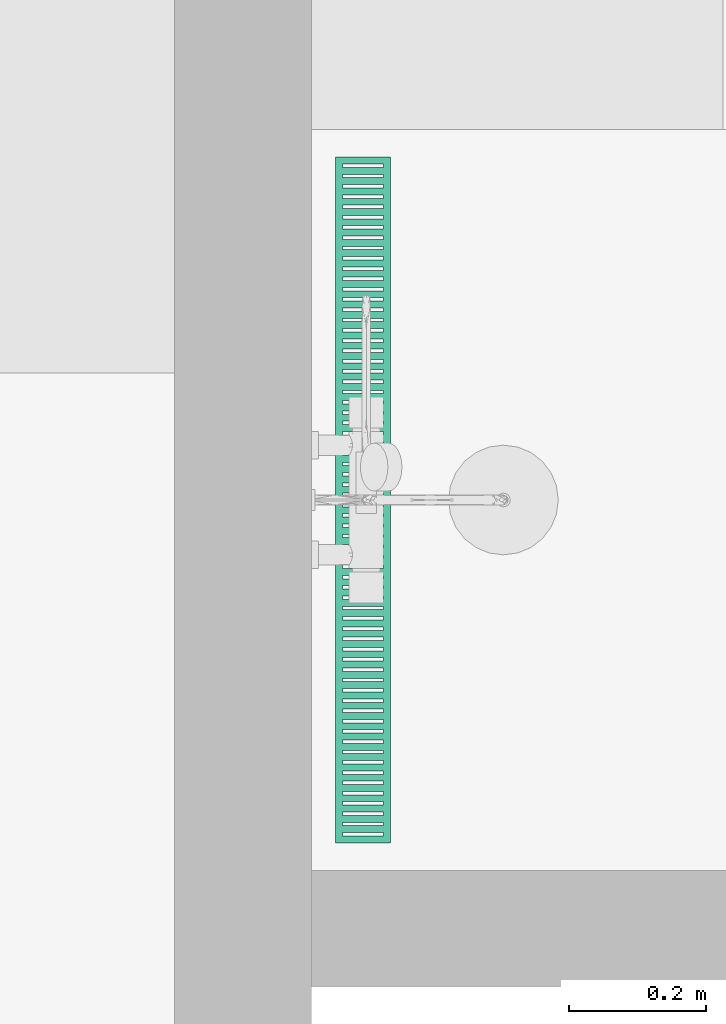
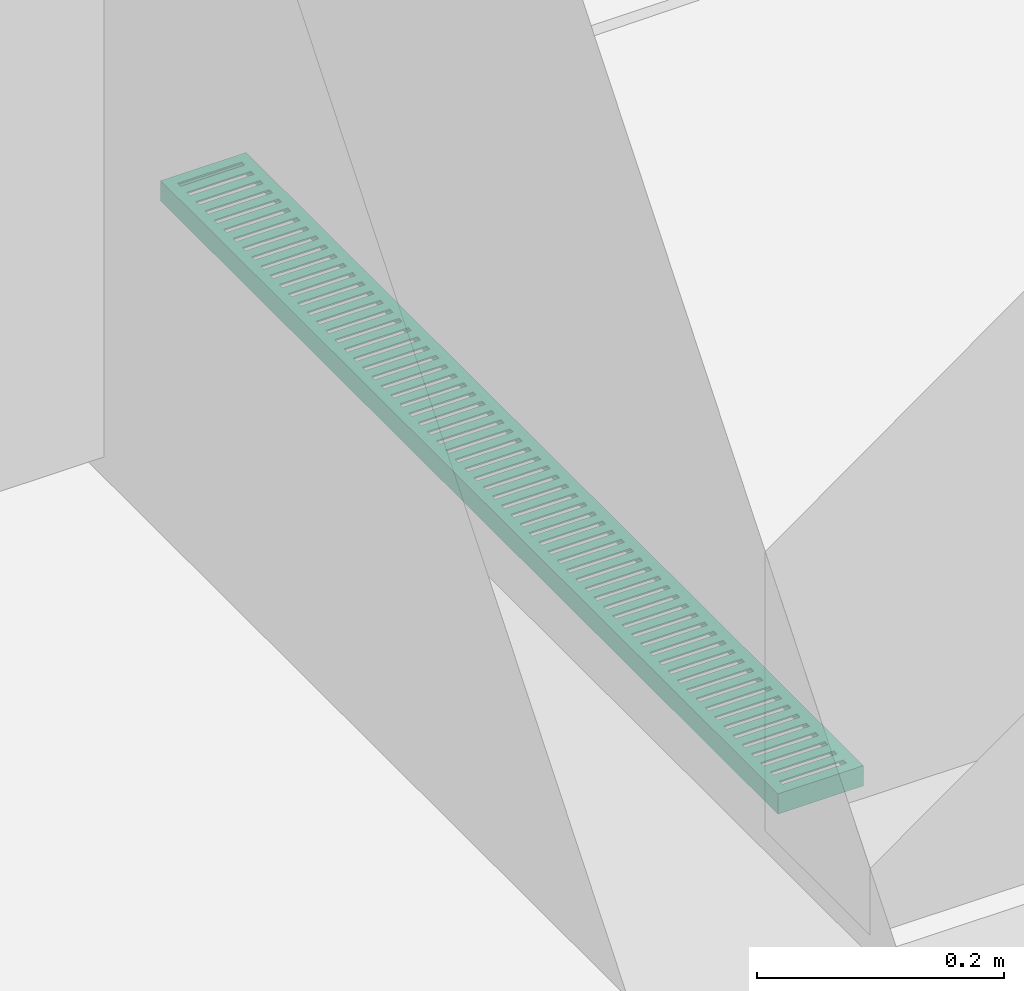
# One storey, part 51 of 125: 1 flow terminal.
"""IFC2X3 building model written with IfcOpenShell, lengths in millimetres."""

from ifc_helpers import new_model, entity, si_unit, converted_unit, direction, frame, origin, place, context, subcontext, project, spatial, faceted_brep, source, transform, mapped, material, type_object, type_shapes, element, save


model = new_model("IFC2X3")

# Units and contexts
model_context = context("Model", 3, precision=0.01, world=origin(), true_north=direction((6.123233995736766e-17, 1.0)))
plan_context = context("Plan", 3, precision=0.01, world=origin(), true_north=direction((6.123233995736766e-17, 1.0)))
body_context = subcontext(model_context, "Body", "Model", "MODEL_VIEW")
ifc_project = project(units=[si_unit("LENGTHUNIT", "METRE", prefix="MILLI"), converted_unit("PLANEANGLEUNIT", "DEGREE", entity("IfcPlaneAngleMeasure", 0.017453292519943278), si_unit("PLANEANGLEUNIT", "RADIAN"), dimensions=[0, 0, 0, 0, 0, 0, 0]), si_unit("AREAUNIT", "SQUARE_METRE")], contexts=[model_context, plan_context])

# Site, building, storey, space
site_placement = place(None, origin())
site = spatial("IfcSite", under=ifc_project, at=site_placement, Name="Default", CompositionType="ELEMENT")
building_placement = place(site_placement, origin())
building = spatial("IfcBuilding", under=site, at=building_placement, CompositionType="ELEMENT")
storey_placement = place(building_placement, frame((0.0, 0.0, 3125.0)))
storey = spatial("IfcBuildingStorey", under=building, at=storey_placement, Name="2K", CompositionType="ELEMENT", Elevation=3125.0)
space_placement = place(storey_placement, origin())
space = spatial("IfcSpace", under=storey, at=space_placement, Name="2-3.4", CompositionType="ELEMENT", InteriorOrExteriorSpace="INTERNAL")

# Flow terminal
ifc_material = material(Name="<Unnamed>")
distribution_element_type = type_object("IfcDistributionElementType", Name="HR_Plumbing-fixtures_Drain_Channel_Generic_v1:Default", material=ifc_material)
shared_shape = source(origin(), body_context, "Body", "Brep", [
    faceted_brep([(500.0, 80.0, 0.0), (-500.0, 80.0, 0.0), (-500.0, 0.0, 0.0), (500.0, 0.0, 0.0), (20.0, 70.0, 0.0), (25.0, 70.0, 0.0), (25.0, 10.0, 0.0), (20.0, 10.0, 0.0), (35.0, 70.0, 0.0), (40.0, 70.0, 0.0), (40.0, 10.0, 0.0), (35.0, 10.0, 0.0), (50.0, 70.0, 0.0), (55.0, 70.0, 0.0), (55.0, 10.0, 0.0), (50.0, 10.0, 0.0), (65.0, 70.0, 0.0), (70.0, 70.0, 0.0), (70.0, 10.0, 0.0), (65.0, 10.0, 0.0), (80.0, 70.0, 0.0), (85.0, 70.0, 0.0), (85.0, 10.0, 0.0), (80.0, 10.0, 0.0), (95.0, 70.0, 0.0), (100.0, 70.0, 0.0), (100.0, 10.0, 0.0), (95.0, 10.0, 0.0), (110.0, 70.0, 0.0), (115.0, 70.0, 0.0), (115.0, 10.0, 0.0), (110.0, 10.0, 0.0), (125.0, 70.0, 0.0), (130.0, 70.0, 0.0), (130.0, 10.0, 0.0), (125.0, 10.0, 0.0), (140.0, 70.0, 0.0), (145.0, 70.0, 0.0), (145.0, 10.0, 0.0), (140.0, 10.0, 0.0), (155.0, 70.0, 0.0), (160.0, 70.0, 0.0), (160.0, 10.0, 0.0), (155.0, 10.0, 0.0), (170.0, 70.0, 0.0), (175.0, 70.0, 0.0), (175.0, 10.0, 0.0), (170.0, 10.0, 0.0), (185.0, 70.0, 0.0), (190.0, 70.0, 0.0), (190.0, 10.0, 0.0), (185.0, 10.0, 0.0), (200.0, 70.0, 0.0), (205.0, 70.0, 0.0), (205.0, 10.0, 0.0), (200.0, 10.0, 0.0), (215.0, 70.0, 0.0), (220.0, 70.0, 0.0), (220.0, 10.0, 0.0), (215.0, 10.0, 0.0), (230.0, 70.0, 0.0), (235.0, 70.0, 0.0), (235.0, 10.0, 0.0), (230.0, 10.0, 0.0), (245.0, 70.0, 0.0), (250.0, 70.0, 0.0), (250.0, 10.0, 0.0), (245.0, 10.0, 0.0), (260.0, 70.0, 0.0), (265.0, 70.0, 0.0), (265.0, 10.0, 0.0), (260.0, 10.0, 0.0), (275.0, 70.0, 0.0), (280.0, 70.0, 0.0), (280.0, 10.0, 0.0), (275.0, 10.0, 0.0), (290.0, 70.0, 0.0), (295.0, 70.0, 0.0), (295.0, 10.0, 0.0), (290.0, 10.0, 0.0), (305.0, 70.0, 0.0), (310.0, 70.0, 0.0), (310.0, 10.0, 0.0), (305.0, 10.0, 0.0), (320.0, 70.0, 0.0), (325.0, 70.0, 0.0), (325.0, 10.0, 0.0), (320.0, 10.0, 0.0), (335.0, 70.0, 0.0), (340.0, 70.0, 0.0), (340.0, 10.0, 0.0), (335.0, 10.0, 0.0), (350.0, 70.0, 0.0), (355.0, 70.0, 0.0), (355.0, 10.0, 0.0), (350.0, 10.0, 0.0), (365.0, 70.0, 0.0), (370.0, 70.0, 0.0), (370.0, 10.0, 0.0), (365.0, 10.0, 0.0), (380.0, 70.0, 0.0), (385.0, 70.0, 0.0), (385.0, 10.0, 0.0), (380.0, 10.0, 0.0), (-25.0, 70.0, 0.0), (-20.0, 70.0, 0.0), (-20.0, 10.0, 0.0), (-25.0, 10.0, 0.0), (-40.0, 70.0, 0.0), (-35.0, 70.0, 0.0), (-35.0, 10.0, 0.0), (-40.0, 10.0, 0.0), (-55.0, 70.0, 0.0), (-50.0, 70.0, 0.0), (-50.0, 10.0, 0.0), (-55.0, 10.0, 0.0), (-70.0, 70.0, 0.0), (-65.0, 70.0, 0.0), (-65.0, 10.0, 0.0), (-70.0, 10.0, 0.0), (-85.0, 70.0, 0.0), (-80.0, 70.0, 0.0), (-80.0, 10.0, 0.0), (-85.0, 10.0, 0.0), (-100.0, 70.0, 0.0), (-95.0, 70.0, 0.0), (-95.0, 10.0, 0.0), (-100.0, 10.0, 0.0), (-115.0, 70.0, 0.0), (-110.0, 70.0, 0.0), (-110.0, 10.0, 0.0), (-115.0, 10.0, 0.0), (-130.0, 70.0, 0.0), (-125.0, 70.0, 0.0), (-125.0, 10.0, 0.0), (-130.0, 10.0, 0.0), (-145.0, 70.0, 0.0), (-140.0, 70.0, 0.0), (-140.0, 10.0, 0.0), (-145.0, 10.0, 0.0), (-160.0, 70.0, 0.0), (-155.0, 70.0, 0.0), (-155.0, 10.0, 0.0), (-160.0, 10.0, 0.0), (-175.0, 70.0, 0.0), (-170.0, 70.0, 0.0), (-170.0, 10.0, 0.0), (-175.0, 10.0, 0.0), (-190.0, 70.0, 0.0), (-185.0, 70.0, 0.0), (-185.0, 10.0, 0.0), (-190.0, 10.0, 0.0), (-205.0, 70.0, 0.0), (-200.0, 70.0, 0.0), (-200.0, 10.0, 0.0), (-205.0, 10.0, 0.0), (-220.0, 70.0, 0.0), (-215.0, 70.0, 0.0), (-215.0, 10.0, 0.0), (-220.0, 10.0, 0.0), (-235.0, 70.0, 0.0), (-230.0, 70.0, 0.0), (-230.0, 10.0, 0.0), (-235.0, 10.0, 0.0), (-250.0, 70.0, 0.0), (-245.0, 70.0, 0.0), (-245.0, 10.0, 0.0), (-250.0, 10.0, 0.0), (-265.0, 70.0, 0.0), (-260.0, 70.0, 0.0), (-260.0, 10.0, 0.0), (-265.0, 10.0, 0.0), (-280.0, 70.0, 0.0), (-275.0, 70.0, 0.0), (-275.0, 10.0, 0.0), (-280.0, 10.0, 0.0), (-295.0, 70.0, 0.0), (-290.0, 70.0, 0.0), (-290.0, 10.0, 0.0), (-295.0, 10.0, 0.0), (-310.0, 70.0, 0.0), (-305.0, 70.0, 0.0), (-305.0, 10.0, 0.0), (-310.0, 10.0, 0.0), (-325.0, 70.0, 0.0), (-320.0, 70.0, 0.0), (-320.0, 10.0, 0.0), (-325.0, 10.0, 0.0), (-340.0, 70.0, 0.0), (-335.0, 70.0, 0.0), (-335.0, 10.0, 0.0), (-340.0, 10.0, 0.0), (-355.0, 70.0, 0.0), (-350.0, 70.0, 0.0), (-350.0, 10.0, 0.0), (-355.0, 10.0, 0.0), (-370.0, 70.0, 0.0), (-365.0, 70.0, 0.0), (-365.0, 10.0, 0.0), (-370.0, 10.0, 0.0), (-385.0, 70.0, 0.0), (-380.0, 70.0, 0.0), (-380.0, 10.0, 0.0), (-385.0, 10.0, 0.0), (395.0, 70.0, 0.0), (400.0, 70.0, 0.0), (400.0, 10.0, 0.0), (395.0, 10.0, 0.0), (410.0, 70.0, 0.0), (415.0, 70.0, 0.0), (415.0, 10.0, 0.0), (410.0, 10.0, 0.0), (425.0, 70.0, 0.0), (430.0, 70.0, 0.0), (430.0, 10.0, 0.0), (425.0, 10.0, 0.0), (440.0, 70.0, 0.0), (445.0, 70.0, 0.0), (445.0, 10.0, 0.0), (440.0, 10.0, 0.0), (455.0, 70.0, 0.0), (460.0, 70.0, 0.0), (460.0, 10.0, 0.0), (455.0, 10.0, 0.0), (470.0, 70.0, 0.0), (475.0, 70.0, 0.0), (475.0, 10.0, 0.0), (470.0, 10.0, 0.0), (485.0, 70.0, 0.0), (490.0, 70.0, 0.0), (490.0, 10.0, 0.0), (485.0, 10.0, 0.0), (-400.0, 70.0, 0.0), (-395.0, 70.0, 0.0), (-395.0, 10.0, 0.0), (-400.0, 10.0, 0.0), (-415.0, 70.0, 0.0), (-410.0, 70.0, 0.0), (-410.0, 10.0, 0.0), (-415.0, 10.0, 0.0), (-430.0, 70.0, 0.0), (-425.0, 70.0, 0.0), (-425.0, 10.0, 0.0), (-430.0, 10.0, 0.0), (-445.0, 70.0, 0.0), (-440.0, 70.0, 0.0), (-440.0, 10.0, 0.0), (-445.0, 10.0, 0.0), (-460.0, 70.0, 0.0), (-455.0, 70.0, 0.0), (-455.0, 10.0, 0.0), (-460.0, 10.0, 0.0), (-475.0, 70.0, 0.0), (-470.0, 70.0, 0.0), (-470.0, 10.0, 0.0), (-475.0, 10.0, 0.0), (-490.0, 70.0, 0.0), (-485.0, 70.0, 0.0), (-485.0, 10.0, 0.0), (-490.0, 10.0, 0.0), (-10.0, 70.0, 0.0), (-5.0, 70.0, 0.0), (-5.0, 10.0, 0.0), (-10.0, 10.0, 0.0), (5.0, 70.0, 0.0), (10.0, 70.0, 0.0), (10.0, 10.0, 0.0), (5.0, 10.0, 0.0), (-500.0, 80.0, -20.0), (500.0, 80.0, -20.0), (500.0, 0.0, -20.0), (-500.0, 0.0, -20.0), (498.5000000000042, 78.500000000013, -20.0), (-498.49999999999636, 78.500000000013, -20.0), (-498.49999999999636, 1.5000000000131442, -20.0), (498.5000000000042, 1.5000000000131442, -20.0), (498.5000000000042, 78.500000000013, -1.5000000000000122), (498.5000000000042, 1.5000000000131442, -1.5000000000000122), (-498.49999999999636, 1.5000000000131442, -1.5000000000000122), (-498.49999999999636, 78.500000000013, -1.5000000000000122), (25.0, 70.0, -1.5000000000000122), (20.0, 70.0, -1.5000000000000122), (20.0, 10.0, -1.5000000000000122), (25.0, 10.0, -1.5000000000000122), (40.0, 70.0, -1.5000000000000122), (35.0, 70.0, -1.5000000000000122), (35.0, 10.0, -1.5000000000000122), (40.0, 10.0, -1.5000000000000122), (55.0, 70.0, -1.5000000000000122), (50.0, 70.0, -1.5000000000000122), (50.0, 10.0, -1.5000000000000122), (55.0, 10.0, -1.5000000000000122), (70.0, 70.0, -1.5000000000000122), (65.0, 70.0, -1.5000000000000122), (65.0, 10.0, -1.5000000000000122), (70.0, 10.0, -1.5000000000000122), (85.0, 70.0, -1.5000000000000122), (80.0, 70.0, -1.5000000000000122), (80.0, 10.0, -1.5000000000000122), (85.0, 10.0, -1.5000000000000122), (100.0, 70.0, -1.5000000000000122), (95.0, 70.0, -1.5000000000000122), (95.0, 10.0, -1.5000000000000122), (100.0, 10.0, -1.5000000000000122), (115.0, 70.0, -1.5000000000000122), (110.0, 70.0, -1.5000000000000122), (110.0, 10.0, -1.5000000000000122), (115.0, 10.0, -1.5000000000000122), (130.0, 70.0, -1.5000000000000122), (125.0, 70.0, -1.5000000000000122), (125.0, 10.0, -1.5000000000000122), (130.0, 10.0, -1.5000000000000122), (145.0, 70.0, -1.5000000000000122), (140.0, 70.0, -1.5000000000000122), (140.0, 10.0, -1.5000000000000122), (145.0, 10.0, -1.5000000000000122), (160.0, 70.0, -1.5000000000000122), (155.0, 70.0, -1.5000000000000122), (155.0, 10.0, -1.5000000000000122), (160.0, 10.0, -1.5000000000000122), (175.0, 70.0, -1.5000000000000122), (170.0, 70.0, -1.5000000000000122), (170.0, 10.0, -1.5000000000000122), (175.0, 10.0, -1.5000000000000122), (190.0, 70.0, -1.5000000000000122), (185.0, 70.0, -1.5000000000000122), (185.0, 10.0, -1.5000000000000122), (190.0, 10.0, -1.5000000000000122), (205.0, 70.0, -1.5000000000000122), (200.0, 70.0, -1.5000000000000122), (200.0, 10.0, -1.5000000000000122), (205.0, 10.0, -1.5000000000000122), (220.0, 70.0, -1.5000000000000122), (215.0, 70.0, -1.5000000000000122), (215.0, 10.0, -1.5000000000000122), (220.0, 10.0, -1.5000000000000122), (235.0, 70.0, -1.5000000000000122), (230.0, 70.0, -1.5000000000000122), (230.0, 10.0, -1.5000000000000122), (235.0, 10.0, -1.5000000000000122), (250.0, 70.0, -1.5000000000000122), (245.0, 70.0, -1.5000000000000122), (245.0, 10.0, -1.5000000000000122), (250.0, 10.0, -1.5000000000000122), (265.0, 70.0, -1.5000000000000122), (260.0, 70.0, -1.5000000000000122), (260.0, 10.0, -1.5000000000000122), (265.0, 10.0, -1.5000000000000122), (280.0, 70.0, -1.5000000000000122), (275.0, 70.0, -1.5000000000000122), (275.0, 10.0, -1.5000000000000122), (280.0, 10.0, -1.5000000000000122), (295.0, 70.0, -1.5000000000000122), (290.0, 70.0, -1.5000000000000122), (290.0, 10.0, -1.5000000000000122), (295.0, 10.0, -1.5000000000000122), (310.0, 70.0, -1.5000000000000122), (305.0, 70.0, -1.5000000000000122), (305.0, 10.0, -1.5000000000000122), (310.0, 10.0, -1.5000000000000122), (325.0, 70.0, -1.5000000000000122), (320.0, 70.0, -1.5000000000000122), (320.0, 10.0, -1.5000000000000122), (325.0, 10.0, -1.5000000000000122), (340.0, 70.0, -1.5000000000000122), (335.0, 70.0, -1.5000000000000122), (335.0, 10.0, -1.5000000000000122), (340.0, 10.0, -1.5000000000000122), (355.0, 70.0, -1.5000000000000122), (350.0, 70.0, -1.5000000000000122), (350.0, 10.0, -1.5000000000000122), (355.0, 10.0, -1.5000000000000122), (370.0, 70.0, -1.5000000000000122), (365.0, 70.0, -1.5000000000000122), (365.0, 10.0, -1.5000000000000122), (370.0, 10.0, -1.5000000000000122), (385.0, 70.0, -1.5000000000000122), (380.0, 70.0, -1.5000000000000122), (380.0, 10.0, -1.5000000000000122), (385.0, 10.0, -1.5000000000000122), (-20.0, 70.0, -1.5000000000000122), (-25.0, 70.0, -1.5000000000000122), (-25.0, 10.0, -1.5000000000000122), (-20.0, 10.0, -1.5000000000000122), (-35.0, 70.0, -1.5000000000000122), (-40.0, 70.0, -1.5000000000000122), (-40.0, 10.0, -1.5000000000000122), (-35.0, 10.0, -1.5000000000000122), (-50.0, 70.0, -1.5000000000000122), (-55.0, 70.0, -1.5000000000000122), (-55.0, 10.0, -1.5000000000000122), (-50.0, 10.0, -1.5000000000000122), (-65.0, 70.0, -1.5000000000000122), (-70.0, 70.0, -1.5000000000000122), (-70.0, 10.0, -1.5000000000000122), (-65.0, 10.0, -1.5000000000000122), (-80.0, 70.0, -1.5000000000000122), (-85.0, 70.0, -1.5000000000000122), (-85.0, 10.0, -1.5000000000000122), (-80.0, 10.0, -1.5000000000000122), (-95.0, 70.0, -1.5000000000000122), (-100.0, 70.0, -1.5000000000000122), (-100.0, 10.0, -1.5000000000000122), (-95.0, 10.0, -1.5000000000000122), (-110.0, 70.0, -1.5000000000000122), (-115.0, 70.0, -1.5000000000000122), (-115.0, 10.0, -1.5000000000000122), (-110.0, 10.0, -1.5000000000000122), (-125.0, 70.0, -1.5000000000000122), (-130.0, 70.0, -1.5000000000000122), (-130.0, 10.0, -1.5000000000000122), (-125.0, 10.0, -1.5000000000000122), (-140.0, 70.0, -1.5000000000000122), (-145.0, 70.0, -1.5000000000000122), (-145.0, 10.0, -1.5000000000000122), (-140.0, 10.0, -1.5000000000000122), (-155.0, 70.0, -1.5000000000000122), (-160.0, 70.0, -1.5000000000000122), (-160.0, 10.0, -1.5000000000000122), (-155.0, 10.0, -1.5000000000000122), (-170.0, 70.0, -1.5000000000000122), (-175.0, 70.0, -1.5000000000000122), (-175.0, 10.0, -1.5000000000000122), (-170.0, 10.0, -1.5000000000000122), (-185.0, 70.0, -1.5000000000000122), (-190.0, 70.0, -1.5000000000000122), (-190.0, 10.0, -1.5000000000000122), (-185.0, 10.0, -1.5000000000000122), (-200.0, 70.0, -1.5000000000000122), (-205.0, 70.0, -1.5000000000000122), (-205.0, 10.0, -1.5000000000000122), (-200.0, 10.0, -1.5000000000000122), (-215.0, 70.0, -1.5000000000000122), (-220.0, 70.0, -1.5000000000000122), (-220.0, 10.0, -1.5000000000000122), (-215.0, 10.0, -1.5000000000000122), (-230.0, 70.0, -1.5000000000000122), (-235.0, 70.0, -1.5000000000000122), (-235.0, 10.0, -1.5000000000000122), (-230.0, 10.0, -1.5000000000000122), (-245.0, 70.0, -1.5000000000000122), (-250.0, 70.0, -1.5000000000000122), (-250.0, 10.0, -1.5000000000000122), (-245.0, 10.0, -1.5000000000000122), (-260.0, 70.0, -1.5000000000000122), (-265.0, 70.0, -1.5000000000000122), (-265.0, 10.0, -1.5000000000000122), (-260.0, 10.0, -1.5000000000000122), (-275.0, 70.0, -1.5000000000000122), (-280.0, 70.0, -1.5000000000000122), (-280.0, 10.0, -1.5000000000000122), (-275.0, 10.0, -1.5000000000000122), (-290.0, 70.0, -1.5000000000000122), (-295.0, 70.0, -1.5000000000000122), (-295.0, 10.0, -1.5000000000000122), (-290.0, 10.0, -1.5000000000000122), (-305.0, 70.0, -1.5000000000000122), (-310.0, 70.0, -1.5000000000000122), (-310.0, 10.0, -1.5000000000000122), (-305.0, 10.0, -1.5000000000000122), (-320.0, 70.0, -1.5000000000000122), (-325.0, 70.0, -1.5000000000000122), (-325.0, 10.0, -1.5000000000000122), (-320.0, 10.0, -1.5000000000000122), (-335.0, 70.0, -1.5000000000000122), (-340.0, 70.0, -1.5000000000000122), (-340.0, 10.0, -1.5000000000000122), (-335.0, 10.0, -1.5000000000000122), (-350.0, 70.0, -1.5000000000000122), (-355.0, 70.0, -1.5000000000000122), (-355.0, 10.0, -1.5000000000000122), (-350.0, 10.0, -1.5000000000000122), (-365.0, 70.0, -1.5000000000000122), (-370.0, 70.0, -1.5000000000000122), (-370.0, 10.0, -1.5000000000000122), (-365.0, 10.0, -1.5000000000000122), (-380.0, 70.0, -1.5000000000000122), (-385.0, 70.0, -1.5000000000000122), (-385.0, 10.0, -1.5000000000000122), (-380.0, 10.0, -1.5000000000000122), (400.0, 70.0, -1.5000000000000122), (395.0, 70.0, -1.5000000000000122), (395.0, 10.0, -1.5000000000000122), (400.0, 10.0, -1.5000000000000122), (415.0, 70.0, -1.5000000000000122), (410.0, 70.0, -1.5000000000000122), (410.0, 10.0, -1.5000000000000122), (415.0, 10.0, -1.5000000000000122), (430.0, 70.0, -1.5000000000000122), (425.0, 70.0, -1.5000000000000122), (425.0, 10.0, -1.5000000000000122), (430.0, 10.0, -1.5000000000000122), (445.0, 70.0, -1.5000000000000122), (440.0, 70.0, -1.5000000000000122), (440.0, 10.0, -1.5000000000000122), (445.0, 10.0, -1.5000000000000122), (460.0, 70.0, -1.5000000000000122), (455.0, 70.0, -1.5000000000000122), (455.0, 10.0, -1.5000000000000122), (460.0, 10.0, -1.5000000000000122), (475.0, 70.0, -1.5000000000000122), (470.0, 70.0, -1.5000000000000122), (470.0, 10.0, -1.5000000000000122), (475.0, 10.0, -1.5000000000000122), (490.0, 70.0, -1.5000000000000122), (485.0, 70.0, -1.5000000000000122), (485.0, 10.0, -1.5000000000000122), (490.0, 10.0, -1.5000000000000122), (-395.0, 70.0, -1.5000000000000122), (-400.0, 70.0, -1.5000000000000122), (-400.0, 10.0, -1.5000000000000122), (-395.0, 10.0, -1.5000000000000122), (-410.0, 70.0, -1.5000000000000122), (-415.0, 70.0, -1.5000000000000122), (-415.0, 10.0, -1.5000000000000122), (-410.0, 10.0, -1.5000000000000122), (-425.0, 70.0, -1.5000000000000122), (-430.0, 70.0, -1.5000000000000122), (-430.0, 10.0, -1.5000000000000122), (-425.0, 10.0, -1.5000000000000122), (-440.0, 70.0, -1.5000000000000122), (-445.0, 70.0, -1.5000000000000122), (-445.0, 10.0, -1.5000000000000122), (-440.0, 10.0, -1.5000000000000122), (-455.0, 70.0, -1.5000000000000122), (-460.0, 70.0, -1.5000000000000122), (-460.0, 10.0, -1.5000000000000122), (-455.0, 10.0, -1.5000000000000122), (-470.0, 70.0, -1.5000000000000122), (-475.0, 70.0, -1.5000000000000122), (-475.0, 10.0, -1.5000000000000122), (-470.0, 10.0, -1.5000000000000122), (-485.0, 70.0, -1.5000000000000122), (-490.0, 70.0, -1.5000000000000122), (-490.0, 10.0, -1.5000000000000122), (-485.0, 10.0, -1.5000000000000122), (-5.0, 70.0, -1.5000000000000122), (-10.0, 70.0, -1.5000000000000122), (-10.0, 10.0, -1.5000000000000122), (-5.0, 10.0, -1.5000000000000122), (10.0, 70.0, -1.5000000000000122), (5.0, 70.0, -1.5000000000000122), (5.0, 10.0, -1.5000000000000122), (10.0, 10.0, -1.5000000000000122)], [[[0, 1, 2, 3], [4, 5, 6, 7], [8, 9, 10, 11], [12, 13, 14, 15], [16, 17, 18, 19], [20, 21, 22, 23], [24, 25, 26, 27], [28, 29, 30, 31], [32, 33, 34, 35], [36, 37, 38, 39], [40, 41, 42, 43], [44, 45, 46, 47], [48, 49, 50, 51], [52, 53, 54, 55], [56, 57, 58, 59], [60, 61, 62, 63], [64, 65, 66, 67], [68, 69, 70, 71], [72, 73, 74, 75], [76, 77, 78, 79], [80, 81, 82, 83], [84, 85, 86, 87], [88, 89, 90, 91], [92, 93, 94, 95], [96, 97, 98, 99], [100, 101, 102, 103], [104, 105, 106, 107], [108, 109, 110, 111], [112, 113, 114, 115], [116, 117, 118, 119], [120, 121, 122, 123], [124, 125, 126, 127], [128, 129, 130, 131], [132, 133, 134, 135], [136, 137, 138, 139], [140, 141, 142, 143], [144, 145, 146, 147], [148, 149, 150, 151], [152, 153, 154, 155], [156, 157, 158, 159], [160, 161, 162, 163], [164, 165, 166, 167], [168, 169, 170, 171], [172, 173, 174, 175], [176, 177, 178, 179], [180, 181, 182, 183], [184, 185, 186, 187], [188, 189, 190, 191], [192, 193, 194, 195], [196, 197, 198, 199], [200, 201, 202, 203], [204, 205, 206, 207], [208, 209, 210, 211], [212, 213, 214, 215], [216, 217, 218, 219], [220, 221, 222, 223], [224, 225, 226, 227], [228, 229, 230, 231], [232, 233, 234, 235], [236, 237, 238, 239], [240, 241, 242, 243], [244, 245, 246, 247], [248, 249, 250, 251], [252, 253, 254, 255], [256, 257, 258, 259], [260, 261, 262, 263], [264, 265, 266, 267]], [[268, 269, 270, 271], [272, 273, 274, 275]], [[1, 0, 269, 268]], [[2, 1, 268, 271]], [[3, 2, 271, 270]], [[0, 3, 270, 269]], [[276, 277, 278, 279], [280, 281, 282, 283], [284, 285, 286, 287], [288, 289, 290, 291], [292, 293, 294, 295], [296, 297, 298, 299], [300, 301, 302, 303], [304, 305, 306, 307], [308, 309, 310, 311], [312, 313, 314, 315], [316, 317, 318, 319], [320, 321, 322, 323], [324, 325, 326, 327], [328, 329, 330, 331], [332, 333, 334, 335], [336, 337, 338, 339], [340, 341, 342, 343], [344, 345, 346, 347], [348, 349, 350, 351], [352, 353, 354, 355], [356, 357, 358, 359], [360, 361, 362, 363], [364, 365, 366, 367], [368, 369, 370, 371], [372, 373, 374, 375], [376, 377, 378, 379], [380, 381, 382, 383], [384, 385, 386, 387], [388, 389, 390, 391], [392, 393, 394, 395], [396, 397, 398, 399], [400, 401, 402, 403], [404, 405, 406, 407], [408, 409, 410, 411], [412, 413, 414, 415], [416, 417, 418, 419], [420, 421, 422, 423], [424, 425, 426, 427], [428, 429, 430, 431], [432, 433, 434, 435], [436, 437, 438, 439], [440, 441, 442, 443], [444, 445, 446, 447], [448, 449, 450, 451], [452, 453, 454, 455], [456, 457, 458, 459], [460, 461, 462, 463], [464, 465, 466, 467], [468, 469, 470, 471], [472, 473, 474, 475], [476, 477, 478, 479], [480, 481, 482, 483], [484, 485, 486, 487], [488, 489, 490, 491], [492, 493, 494, 495], [496, 497, 498, 499], [500, 501, 502, 503], [504, 505, 506, 507], [508, 509, 510, 511], [512, 513, 514, 515], [516, 517, 518, 519], [520, 521, 522, 523], [524, 525, 526, 527], [528, 529, 530, 531], [532, 533, 534, 535], [536, 537, 538, 539], [540, 541, 542, 543]], [[276, 279, 273, 272]], [[279, 278, 274, 273]], [[278, 277, 275, 274]], [[277, 276, 272, 275]], [[5, 4, 281, 280]], [[4, 7, 282, 281]], [[7, 6, 283, 282]], [[6, 5, 280, 283]], [[9, 8, 285, 284]], [[8, 11, 286, 285]], [[11, 10, 287, 286]], [[10, 9, 284, 287]], [[13, 12, 289, 288]], [[12, 15, 290, 289]], [[15, 14, 291, 290]], [[14, 13, 288, 291]], [[17, 16, 293, 292]], [[16, 19, 294, 293]], [[19, 18, 295, 294]], [[18, 17, 292, 295]], [[21, 20, 297, 296]], [[20, 23, 298, 297]], [[23, 22, 299, 298]], [[22, 21, 296, 299]], [[25, 24, 301, 300]], [[24, 27, 302, 301]], [[27, 26, 303, 302]], [[26, 25, 300, 303]], [[29, 28, 305, 304]], [[28, 31, 306, 305]], [[31, 30, 307, 306]], [[30, 29, 304, 307]], [[33, 32, 309, 308]], [[32, 35, 310, 309]], [[35, 34, 311, 310]], [[34, 33, 308, 311]], [[37, 36, 313, 312]], [[36, 39, 314, 313]], [[39, 38, 315, 314]], [[38, 37, 312, 315]], [[41, 40, 317, 316]], [[40, 43, 318, 317]], [[43, 42, 319, 318]], [[42, 41, 316, 319]], [[45, 44, 321, 320]], [[44, 47, 322, 321]], [[47, 46, 323, 322]], [[46, 45, 320, 323]], [[49, 48, 325, 324]], [[48, 51, 326, 325]], [[51, 50, 327, 326]], [[50, 49, 324, 327]], [[53, 52, 329, 328]], [[52, 55, 330, 329]], [[55, 54, 331, 330]], [[54, 53, 328, 331]], [[57, 56, 333, 332]], [[56, 59, 334, 333]], [[59, 58, 335, 334]], [[58, 57, 332, 335]], [[61, 60, 337, 336]], [[60, 63, 338, 337]], [[63, 62, 339, 338]], [[62, 61, 336, 339]], [[65, 64, 341, 340]], [[64, 67, 342, 341]], [[67, 66, 343, 342]], [[66, 65, 340, 343]], [[69, 68, 345, 344]], [[68, 71, 346, 345]], [[71, 70, 347, 346]], [[70, 69, 344, 347]], [[73, 72, 349, 348]], [[72, 75, 350, 349]], [[75, 74, 351, 350]], [[74, 73, 348, 351]], [[77, 76, 353, 352]], [[76, 79, 354, 353]], [[79, 78, 355, 354]], [[78, 77, 352, 355]], [[81, 80, 357, 356]], [[80, 83, 358, 357]], [[83, 82, 359, 358]], [[82, 81, 356, 359]], [[85, 84, 361, 360]], [[84, 87, 362, 361]], [[87, 86, 363, 362]], [[86, 85, 360, 363]], [[89, 88, 365, 364]], [[88, 91, 366, 365]], [[91, 90, 367, 366]], [[90, 89, 364, 367]], [[93, 92, 369, 368]], [[92, 95, 370, 369]], [[95, 94, 371, 370]], [[94, 93, 368, 371]], [[97, 96, 373, 372]], [[96, 99, 374, 373]], [[99, 98, 375, 374]], [[98, 97, 372, 375]], [[101, 100, 377, 376]], [[100, 103, 378, 377]], [[103, 102, 379, 378]], [[102, 101, 376, 379]], [[105, 104, 381, 380]], [[104, 107, 382, 381]], [[107, 106, 383, 382]], [[106, 105, 380, 383]], [[109, 108, 385, 384]], [[108, 111, 386, 385]], [[111, 110, 387, 386]], [[110, 109, 384, 387]], [[113, 112, 389, 388]], [[112, 115, 390, 389]], [[115, 114, 391, 390]], [[114, 113, 388, 391]], [[117, 116, 393, 392]], [[116, 119, 394, 393]], [[119, 118, 395, 394]], [[118, 117, 392, 395]], [[121, 120, 397, 396]], [[120, 123, 398, 397]], [[123, 122, 399, 398]], [[122, 121, 396, 399]], [[125, 124, 401, 400]], [[124, 127, 402, 401]], [[127, 126, 403, 402]], [[126, 125, 400, 403]], [[129, 128, 405, 404]], [[128, 131, 406, 405]], [[131, 130, 407, 406]], [[130, 129, 404, 407]], [[133, 132, 409, 408]], [[132, 135, 410, 409]], [[135, 134, 411, 410]], [[134, 133, 408, 411]], [[137, 136, 413, 412]], [[136, 139, 414, 413]], [[139, 138, 415, 414]], [[138, 137, 412, 415]], [[141, 140, 417, 416]], [[140, 143, 418, 417]], [[143, 142, 419, 418]], [[142, 141, 416, 419]], [[145, 144, 421, 420]], [[144, 147, 422, 421]], [[147, 146, 423, 422]], [[146, 145, 420, 423]], [[149, 148, 425, 424]], [[148, 151, 426, 425]], [[151, 150, 427, 426]], [[150, 149, 424, 427]], [[153, 152, 429, 428]], [[152, 155, 430, 429]], [[155, 154, 431, 430]], [[154, 153, 428, 431]], [[157, 156, 433, 432]], [[156, 159, 434, 433]], [[159, 158, 435, 434]], [[158, 157, 432, 435]], [[161, 160, 437, 436]], [[160, 163, 438, 437]], [[163, 162, 439, 438]], [[162, 161, 436, 439]], [[165, 164, 441, 440]], [[164, 167, 442, 441]], [[167, 166, 443, 442]], [[166, 165, 440, 443]], [[169, 168, 445, 444]], [[168, 171, 446, 445]], [[171, 170, 447, 446]], [[170, 169, 444, 447]], [[173, 172, 449, 448]], [[172, 175, 450, 449]], [[175, 174, 451, 450]], [[174, 173, 448, 451]], [[177, 176, 453, 452]], [[176, 179, 454, 453]], [[179, 178, 455, 454]], [[178, 177, 452, 455]], [[181, 180, 457, 456]], [[180, 183, 458, 457]], [[183, 182, 459, 458]], [[182, 181, 456, 459]], [[185, 184, 461, 460]], [[184, 187, 462, 461]], [[187, 186, 463, 462]], [[186, 185, 460, 463]], [[189, 188, 465, 464]], [[188, 191, 466, 465]], [[191, 190, 467, 466]], [[190, 189, 464, 467]], [[193, 192, 469, 468]], [[192, 195, 470, 469]], [[195, 194, 471, 470]], [[194, 193, 468, 471]], [[197, 196, 473, 472]], [[196, 199, 474, 473]], [[199, 198, 475, 474]], [[198, 197, 472, 475]], [[201, 200, 477, 476]], [[200, 203, 478, 477]], [[203, 202, 479, 478]], [[202, 201, 476, 479]], [[205, 204, 481, 480]], [[204, 207, 482, 481]], [[207, 206, 483, 482]], [[206, 205, 480, 483]], [[209, 208, 485, 484]], [[208, 211, 486, 485]], [[211, 210, 487, 486]], [[210, 209, 484, 487]], [[213, 212, 489, 488]], [[212, 215, 490, 489]], [[215, 214, 491, 490]], [[214, 213, 488, 491]], [[217, 216, 493, 492]], [[216, 219, 494, 493]], [[219, 218, 495, 494]], [[218, 217, 492, 495]], [[221, 220, 497, 496]], [[220, 223, 498, 497]], [[223, 222, 499, 498]], [[222, 221, 496, 499]], [[225, 224, 501, 500]], [[224, 227, 502, 501]], [[227, 226, 503, 502]], [[226, 225, 500, 503]], [[229, 228, 505, 504]], [[228, 231, 506, 505]], [[231, 230, 507, 506]], [[230, 229, 504, 507]], [[233, 232, 509, 508]], [[232, 235, 510, 509]], [[235, 234, 511, 510]], [[234, 233, 508, 511]], [[237, 236, 513, 512]], [[236, 239, 514, 513]], [[239, 238, 515, 514]], [[238, 237, 512, 515]], [[241, 240, 517, 516]], [[240, 243, 518, 517]], [[243, 242, 519, 518]], [[242, 241, 516, 519]], [[245, 244, 521, 520]], [[244, 247, 522, 521]], [[247, 246, 523, 522]], [[246, 245, 520, 523]], [[249, 248, 525, 524]], [[248, 251, 526, 525]], [[251, 250, 527, 526]], [[250, 249, 524, 527]], [[253, 252, 529, 528]], [[252, 255, 530, 529]], [[255, 254, 531, 530]], [[254, 253, 528, 531]], [[257, 256, 533, 532]], [[256, 259, 534, 533]], [[259, 258, 535, 534]], [[258, 257, 532, 535]], [[261, 260, 537, 536]], [[260, 263, 538, 537]], [[263, 262, 539, 538]], [[262, 261, 536, 539]], [[265, 264, 541, 540]], [[264, 267, 542, 541]], [[267, 266, 543, 542]], [[266, 265, 540, 543]]]),
])
type_shapes(distribution_element_type, [shared_shape])
flow_terminal_placement = place(space_placement, frame((10185.0, 9750.0, 0.0), z_axis=(0.0, 0.0, 1.0), x_axis=(0.0, -1.0, 0.0)))
element("IfcFlowTerminal", 1, at=flow_terminal_placement, inside=space, type_object=distribution_element_type, material=ifc_material, Name="HR_Plumbing-fixtures_Drain_Channel_Generic_v1:Default", ObjectType="HR_Plumbing-fixtures_Drain_Channel_Generic_v1:Default", context=body_context, shape_type="MappedRepresentation", body=[
    mapped(shared_shape, transform((0.0, 0.0, 0.0), scale=1.0)),
])

save(model, "model.ifc")
